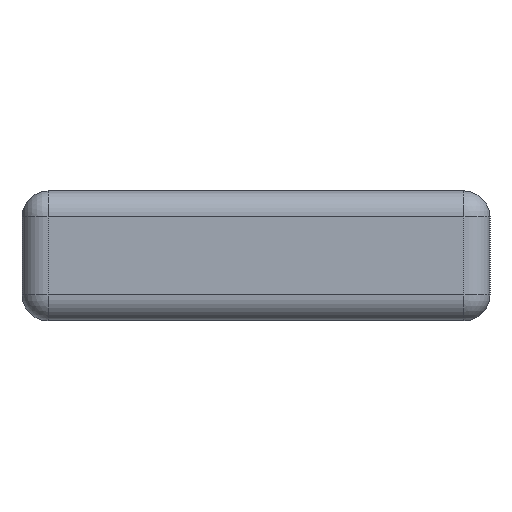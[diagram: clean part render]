
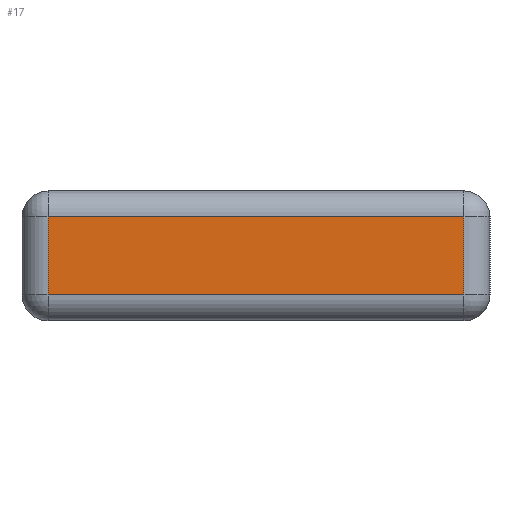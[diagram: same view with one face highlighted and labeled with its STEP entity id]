
A CAD part, left-side view. The second image highlights one B-rep face of the part: STEP entity #17.
In plain terms, the highlighted planar face has unit normal (-1, 0, 0).
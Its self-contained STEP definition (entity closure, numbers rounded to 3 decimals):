
#17 = ADVANCED_FACE('',(#18),#32,.F.);
#18 = FACE_BOUND('',#19,.F.);
#19 = EDGE_LOOP('',(#20,#55,#83,#111));
#20 = ORIENTED_EDGE('',*,*,#21,.F.);
#21 = EDGE_CURVE('',#22,#24,#26,.T.);
#22 = VERTEX_POINT('',#23);
#23 = CARTESIAN_POINT('',(-55.,-16.,2.));
#24 = VERTEX_POINT('',#25);
#25 = CARTESIAN_POINT('',(-55.,-16.,8.));
#26 = SURFACE_CURVE('',#27,(#31,#43),.PCURVE_S1.);
#27 = LINE('',#28,#29);
#28 = CARTESIAN_POINT('',(-55.,-16.,0.));
#29 = VECTOR('',#30,1.);
#30 = DIRECTION('',(0.,0.,1.));
#31 = PCURVE('',#32,#37);
#32 = PLANE('',#33);
#33 = AXIS2_PLACEMENT_3D('',#34,#35,#36);
#34 = CARTESIAN_POINT('',(-55.,-18.,0.));
#35 = DIRECTION('',(1.,0.,0.));
#36 = DIRECTION('',(0.,0.,1.));
#37 = DEFINITIONAL_REPRESENTATION('',(#38),#42);
#38 = LINE('',#39,#40);
#39 = CARTESIAN_POINT('',(0.,-2.));
#40 = VECTOR('',#41,1.);
#41 = DIRECTION('',(1.,0.));
#42 = ( GEOMETRIC_REPRESENTATION_CONTEXT(2) 
PARAMETRIC_REPRESENTATION_CONTEXT() REPRESENTATION_CONTEXT('2D SPACE',''
  ) );
#43 = PCURVE('',#44,#49);
#44 = CYLINDRICAL_SURFACE('',#45,2.);
#45 = AXIS2_PLACEMENT_3D('',#46,#47,#48);
#46 = CARTESIAN_POINT('',(-53.,-16.,0.));
#47 = DIRECTION('',(0.,0.,1.));
#48 = DIRECTION('',(-1.,-0.,0.));
#49 = DEFINITIONAL_REPRESENTATION('',(#50),#54);
#50 = LINE('',#51,#52);
#51 = CARTESIAN_POINT('',(0.,0.));
#52 = VECTOR('',#53,1.);
#53 = DIRECTION('',(0.,1.));
#54 = ( GEOMETRIC_REPRESENTATION_CONTEXT(2) 
PARAMETRIC_REPRESENTATION_CONTEXT() REPRESENTATION_CONTEXT('2D SPACE',''
  ) );
#55 = ORIENTED_EDGE('',*,*,#56,.T.);
#56 = EDGE_CURVE('',#22,#57,#59,.T.);
#57 = VERTEX_POINT('',#58);
#58 = CARTESIAN_POINT('',(-55.,16.,2.));
#59 = SURFACE_CURVE('',#60,(#64,#71),.PCURVE_S1.);
#60 = LINE('',#61,#62);
#61 = CARTESIAN_POINT('',(-55.,-18.,2.));
#62 = VECTOR('',#63,1.);
#63 = DIRECTION('',(0.,1.,0.));
#64 = PCURVE('',#32,#65);
#65 = DEFINITIONAL_REPRESENTATION('',(#66),#70);
#66 = LINE('',#67,#68);
#67 = CARTESIAN_POINT('',(2.,0.));
#68 = VECTOR('',#69,1.);
#69 = DIRECTION('',(0.,-1.));
#70 = ( GEOMETRIC_REPRESENTATION_CONTEXT(2) 
PARAMETRIC_REPRESENTATION_CONTEXT() REPRESENTATION_CONTEXT('2D SPACE',''
  ) );
#71 = PCURVE('',#72,#77);
#72 = CYLINDRICAL_SURFACE('',#73,2.);
#73 = AXIS2_PLACEMENT_3D('',#74,#75,#76);
#74 = CARTESIAN_POINT('',(-53.,-18.,2.));
#75 = DIRECTION('',(0.,1.,0.));
#76 = DIRECTION('',(-1.,0.,0.));
#77 = DEFINITIONAL_REPRESENTATION('',(#78),#82);
#78 = LINE('',#79,#80);
#79 = CARTESIAN_POINT('',(-0.,0.));
#80 = VECTOR('',#81,1.);
#81 = DIRECTION('',(-0.,1.));
#82 = ( GEOMETRIC_REPRESENTATION_CONTEXT(2) 
PARAMETRIC_REPRESENTATION_CONTEXT() REPRESENTATION_CONTEXT('2D SPACE',''
  ) );
#83 = ORIENTED_EDGE('',*,*,#84,.T.);
#84 = EDGE_CURVE('',#57,#85,#87,.T.);
#85 = VERTEX_POINT('',#86);
#86 = CARTESIAN_POINT('',(-55.,16.,8.));
#87 = SURFACE_CURVE('',#88,(#92,#99),.PCURVE_S1.);
#88 = LINE('',#89,#90);
#89 = CARTESIAN_POINT('',(-55.,16.,0.));
#90 = VECTOR('',#91,1.);
#91 = DIRECTION('',(0.,0.,1.));
#92 = PCURVE('',#32,#93);
#93 = DEFINITIONAL_REPRESENTATION('',(#94),#98);
#94 = LINE('',#95,#96);
#95 = CARTESIAN_POINT('',(0.,-34.));
#96 = VECTOR('',#97,1.);
#97 = DIRECTION('',(1.,0.));
#98 = ( GEOMETRIC_REPRESENTATION_CONTEXT(2) 
PARAMETRIC_REPRESENTATION_CONTEXT() REPRESENTATION_CONTEXT('2D SPACE',''
  ) );
#99 = PCURVE('',#100,#105);
#100 = CYLINDRICAL_SURFACE('',#101,2.);
#101 = AXIS2_PLACEMENT_3D('',#102,#103,#104);
#102 = CARTESIAN_POINT('',(-53.,16.,0.));
#103 = DIRECTION('',(0.,0.,1.));
#104 = DIRECTION('',(-1.,-0.,0.));
#105 = DEFINITIONAL_REPRESENTATION('',(#106),#110);
#106 = LINE('',#107,#108);
#107 = CARTESIAN_POINT('',(-0.,0.));
#108 = VECTOR('',#109,1.);
#109 = DIRECTION('',(-0.,1.));
#110 = ( GEOMETRIC_REPRESENTATION_CONTEXT(2) 
PARAMETRIC_REPRESENTATION_CONTEXT() REPRESENTATION_CONTEXT('2D SPACE',''
  ) );
#111 = ORIENTED_EDGE('',*,*,#112,.F.);
#112 = EDGE_CURVE('',#24,#85,#113,.T.);
#113 = SURFACE_CURVE('',#114,(#118,#125),.PCURVE_S1.);
#114 = LINE('',#115,#116);
#115 = CARTESIAN_POINT('',(-55.,-18.,8.));
#116 = VECTOR('',#117,1.);
#117 = DIRECTION('',(0.,1.,0.));
#118 = PCURVE('',#32,#119);
#119 = DEFINITIONAL_REPRESENTATION('',(#120),#124);
#120 = LINE('',#121,#122);
#121 = CARTESIAN_POINT('',(8.,0.));
#122 = VECTOR('',#123,1.);
#123 = DIRECTION('',(0.,-1.));
#124 = ( GEOMETRIC_REPRESENTATION_CONTEXT(2) 
PARAMETRIC_REPRESENTATION_CONTEXT() REPRESENTATION_CONTEXT('2D SPACE',''
  ) );
#125 = PCURVE('',#126,#131);
#126 = CYLINDRICAL_SURFACE('',#127,2.);
#127 = AXIS2_PLACEMENT_3D('',#128,#129,#130);
#128 = CARTESIAN_POINT('',(-53.,-18.,8.));
#129 = DIRECTION('',(0.,1.,0.));
#130 = DIRECTION('',(-1.,0.,0.));
#131 = DEFINITIONAL_REPRESENTATION('',(#132),#136);
#132 = LINE('',#133,#134);
#133 = CARTESIAN_POINT('',(0.,0.));
#134 = VECTOR('',#135,1.);
#135 = DIRECTION('',(0.,1.));
#136 = ( GEOMETRIC_REPRESENTATION_CONTEXT(2) 
PARAMETRIC_REPRESENTATION_CONTEXT() REPRESENTATION_CONTEXT('2D SPACE',''
  ) );
